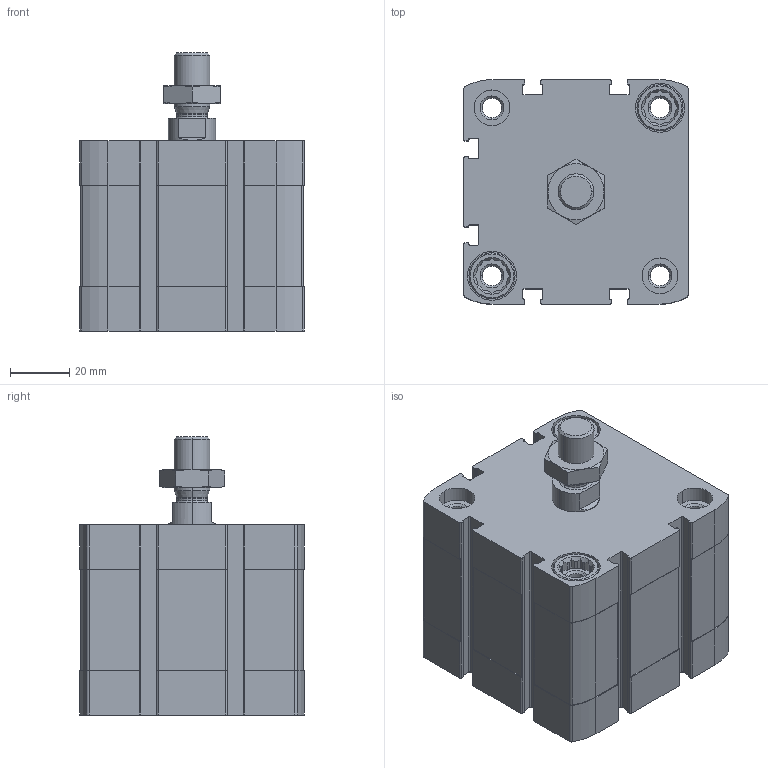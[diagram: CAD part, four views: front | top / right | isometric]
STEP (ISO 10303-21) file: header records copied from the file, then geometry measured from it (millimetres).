
FILE_DESCRIPTION (( 'STEP AP203' ), '1' );
FILE_NAME ('CCN63-15M.STEP', '2017-04-05T18:05:20', ( '' ), ( '' ), 'SwSTEP 2.0', 'SolidWorks 2016', '' );
FILE_SCHEMA (( 'CONFIG_CONTROL_DESIGN' ));
Length unit declared in the file: millimetre
Products named in the file (4): CCN---(Z); CCN --(KS); _DIN-439-B - M12x1.25(F)_1; CCN63-15M
Assembly tree (3 placements, depth 2):
  CCN63-15M
    CCN---(Z)
    CCN --(KS)
    _DIN-439-B - M12x1.25(F)_1
Bounding box: 75.5 x 75.5 x 93.5 mm (x, y, z)
Volume: 294766.1 mm3; surface area: 69929 mm2
Topology: 3 solids, 3 shells, 491 faces, 1316 edges, 862 vertices
Faces by surface type: plane 227, cylinder 212, cone 48, bspline 4
Entity records: 16072 total; most frequent: CARTESIAN_POINT 3135, DIRECTION 2672, ORIENTED_EDGE 2632, EDGE_CURVE 1316, AXIS2_PLACEMENT_3D 977, VERTEX_POINT 862, LINE 718, VECTOR 718
